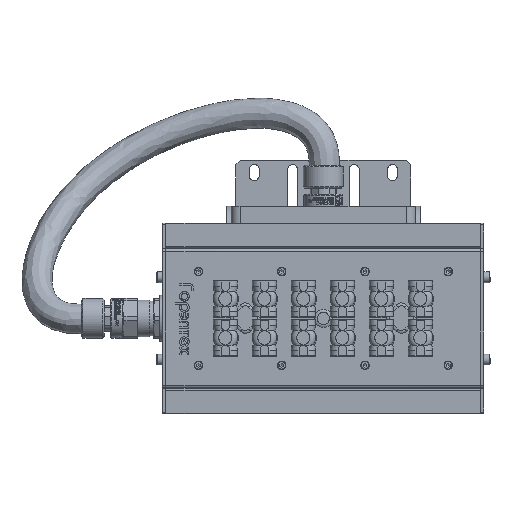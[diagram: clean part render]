
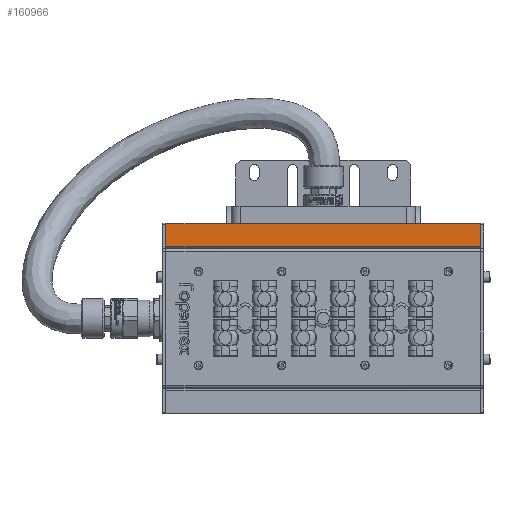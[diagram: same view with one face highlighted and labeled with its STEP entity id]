
A CAD part, front view. The second image highlights one B-rep face of the part: STEP entity #160966.
In plain terms, the highlighted planar face has unit normal (0, -1, 0).
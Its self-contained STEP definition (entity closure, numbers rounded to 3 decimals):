
#550 = CARTESIAN_POINT ( 'NONE',  ( 102.5, -116.15, 11.249 ) ) ;
#1542 = EDGE_CURVE ( 'NONE', #41320, #77220, #94461, .T. ) ;
#5743 = CARTESIAN_POINT ( 'NONE',  ( -102.5, -116.15, 6.299 ) ) ;
#26998 = ORIENTED_EDGE ( 'NONE', *, *, #343575, .T. ) ;
#27068 = CARTESIAN_POINT ( 'NONE',  ( 34.167, -116.15, 21.15 ) ) ;
#31601 = DIRECTION ( 'NONE',  ( 0., 0., -1. ) ) ;
#41320 = VERTEX_POINT ( 'NONE', #227868 ) ;
#58514 = CARTESIAN_POINT ( 'NONE',  ( 102.5, -116.15, 21.15 ) ) ;
#59383 = CARTESIAN_POINT ( 'NONE',  ( 0., -116.15, 21.15 ) ) ;
#60886 = CARTESIAN_POINT ( 'NONE',  ( 102.5, -116.15, 6.299 ) ) ;
#61105 = ORIENTED_EDGE ( 'NONE', *, *, #148786, .F. ) ;
#67139 = CARTESIAN_POINT ( 'NONE',  ( -102.5, -116.15, 21.15 ) ) ;
#74709 = FACE_OUTER_BOUND ( 'NONE', #127409, .T. ) ;
#77220 = VERTEX_POINT ( 'NONE', #67139 ) ;
#94461 = B_SPLINE_CURVE_WITH_KNOTS ( 'NONE', 3,
 ( #167327, #27068, #306420, #112917 ),
 .UNSPECIFIED., .F., .F.,
 ( 4, 4 ),
 ( 0., 1. ),
 .UNSPECIFIED. ) ;
#112917 = CARTESIAN_POINT ( 'NONE',  ( -102.5, -116.15, 21.15 ) ) ;
#127409 = EDGE_LOOP ( 'NONE', ( #260932, #61105, #211791, #26998 ) ) ;
#144033 = PLANE ( 'NONE',  #270146 ) ;
#145390 = CARTESIAN_POINT ( 'NONE',  ( -102.5, -116.15, 21.15 ) ) ;
#146492 = B_SPLINE_CURVE_WITH_KNOTS ( 'NONE', 3,
 ( #60886, #550, #197615, #58514 ),
 .UNSPECIFIED., .F., .F.,
 ( 4, 4 ),
 ( 0., 1. ),
 .UNSPECIFIED. ) ;
#148786 = EDGE_CURVE ( 'NONE', #325063, #77220, #262586, .T. ) ;
#158574 = CARTESIAN_POINT ( 'NONE',  ( 102.5, -116.15, 6.299 ) ) ;
#160966 = ADVANCED_FACE ( 'NONE', ( #74709 ), #144033, .T. ) ;
#167327 = CARTESIAN_POINT ( 'NONE',  ( 102.5, -116.15, 21.15 ) ) ;
#190735 = CARTESIAN_POINT ( 'NONE',  ( -102.5, -116.15, 6.299 ) ) ;
#197615 = CARTESIAN_POINT ( 'NONE',  ( 102.5, -116.15, 16.2 ) ) ;
#211791 = ORIENTED_EDGE ( 'NONE', *, *, #271818, .T. ) ;
#227868 = CARTESIAN_POINT ( 'NONE',  ( 102.5, -116.15, 21.15 ) ) ;
#246389 = CARTESIAN_POINT ( 'NONE',  ( -34.167, -116.15, 6.299 ) ) ;
#253601 = VERTEX_POINT ( 'NONE', #158574 ) ;
#260932 = ORIENTED_EDGE ( 'NONE', *, *, #1542, .T. ) ;
#262586 = B_SPLINE_CURVE_WITH_KNOTS ( 'NONE', 3,
 ( #278541, #329330, #336477, #145390 ),
 .UNSPECIFIED., .F., .F.,
 ( 4, 4 ),
 ( 0., 1. ),
 .UNSPECIFIED. ) ;
#270146 = AXIS2_PLACEMENT_3D ( 'NONE', #59383, #279547, #31601 ) ;
#271818 = EDGE_CURVE ( 'NONE', #325063, #253601, #317928, .T. ) ;
#278541 = CARTESIAN_POINT ( 'NONE',  ( -102.5, -116.15, 6.299 ) ) ;
#279547 = DIRECTION ( 'NONE',  ( 0., -1., 0. ) ) ;
#306420 = CARTESIAN_POINT ( 'NONE',  ( -34.167, -116.15, 21.15 ) ) ;
#317928 = B_SPLINE_CURVE_WITH_KNOTS ( 'NONE', 3,
 ( #190735, #246389, #355187, #332202 ),
 .UNSPECIFIED., .F., .F.,
 ( 4, 4 ),
 ( 0., 1. ),
 .UNSPECIFIED. ) ;
#325063 = VERTEX_POINT ( 'NONE', #5743 ) ;
#329330 = CARTESIAN_POINT ( 'NONE',  ( -102.5, -116.15, 11.249 ) ) ;
#332202 = CARTESIAN_POINT ( 'NONE',  ( 102.5, -116.15, 6.299 ) ) ;
#336477 = CARTESIAN_POINT ( 'NONE',  ( -102.5, -116.15, 16.2 ) ) ;
#343575 = EDGE_CURVE ( 'NONE', #253601, #41320, #146492, .T. ) ;
#355187 = CARTESIAN_POINT ( 'NONE',  ( 34.167, -116.15, 6.299 ) ) ;
